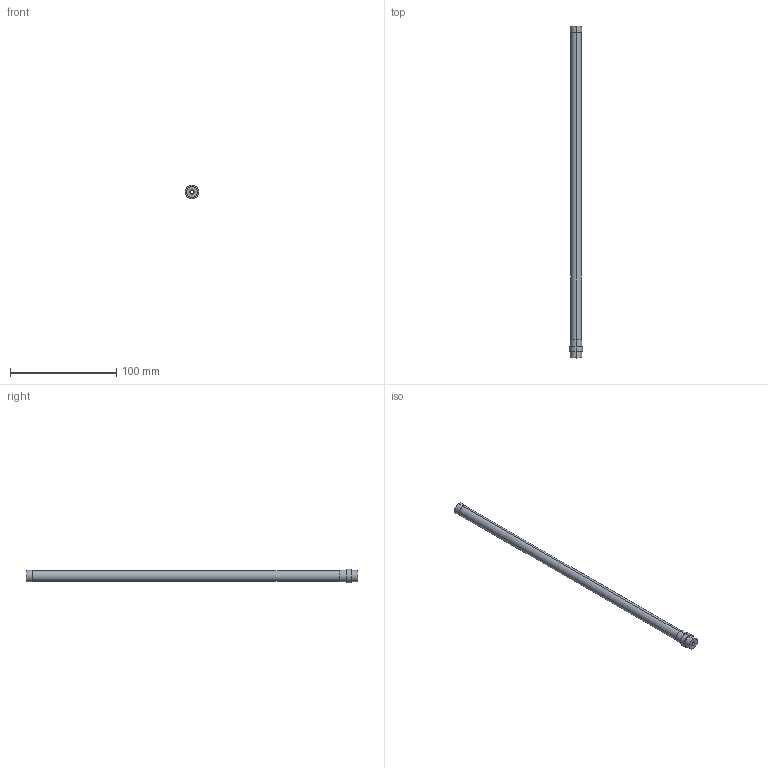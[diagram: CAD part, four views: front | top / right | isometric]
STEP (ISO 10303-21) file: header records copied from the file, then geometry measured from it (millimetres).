
FILE_DESCRIPTION (( 'STEP AP203' ), '1' );
FILE_NAME ('ER-VAK30.STEP', '2005-09-05T00:30:56', ( '' ), ( '' ), 'SwSTEP 2.0', 'SolidWorks 2004073', '' );
FILE_SCHEMA (( 'CONFIG_CONTROL_DESIGN' ));
Length unit declared in the file: millimetre
Products named in the file (1): ER-VAK30
Bounding box: 13 x 312 x 13 mm (x, y, z)
Volume: 21099.4 mm3; surface area: 14083.5 mm2
Topology: 1 solids, 1 shells, 18 faces, 36 edges, 24 vertices
Faces by surface type: cylinder 12, plane 6
Entity records: 565 total; most frequent: DIRECTION 98, CARTESIAN_POINT 79, ORIENTED_EDGE 72, AXIS2_PLACEMENT_3D 43, EDGE_CURVE 36, EDGE_LOOP 24, VERTEX_POINT 24, CIRCLE 24
